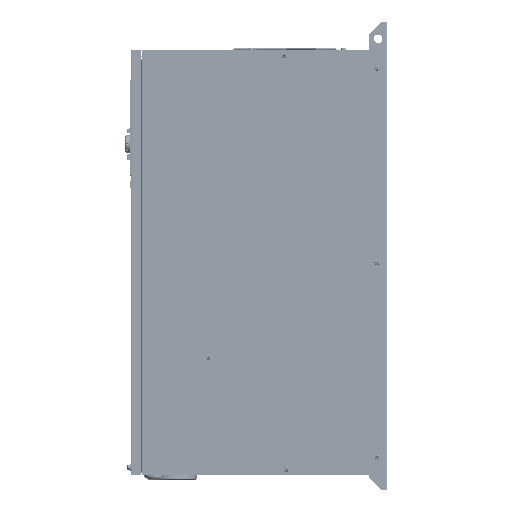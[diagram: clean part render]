
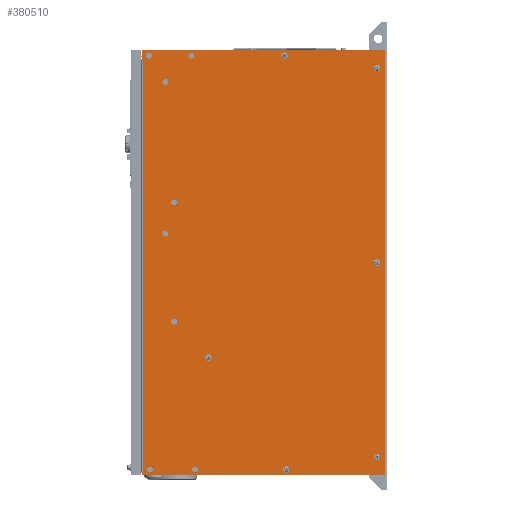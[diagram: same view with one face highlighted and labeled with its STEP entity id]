
A CAD part, left-side view. The second image highlights one B-rep face of the part: STEP entity #380510.
In plain terms, the highlighted planar face has unit normal (-1, 0, 0).
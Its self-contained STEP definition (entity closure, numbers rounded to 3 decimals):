
#20194=FACE_BOUND('',#75819,.T.);
#20195=FACE_BOUND('',#75820,.T.);
#20196=FACE_BOUND('',#75821,.T.);
#20197=FACE_BOUND('',#75822,.T.);
#20198=FACE_BOUND('',#75823,.T.);
#20199=FACE_BOUND('',#75824,.T.);
#20200=FACE_BOUND('',#75825,.T.);
#20201=FACE_BOUND('',#75826,.T.);
#20202=FACE_BOUND('',#75827,.T.);
#20203=FACE_BOUND('',#75828,.T.);
#20204=FACE_BOUND('',#75829,.T.);
#20205=FACE_BOUND('',#75830,.T.);
#20206=FACE_BOUND('',#75831,.T.);
#20207=FACE_BOUND('',#75832,.T.);
#33407=PLANE('',#408307);
#53292=FACE_OUTER_BOUND('',#75818,.T.);
#75818=EDGE_LOOP('',(#347962,#347963,#347964,#347965,#347966,#347967,#347968,
#347969,#347970,#347971,#347972,#347973));
#75819=EDGE_LOOP('',(#347974));
#75820=EDGE_LOOP('',(#347975));
#75821=EDGE_LOOP('',(#347976));
#75822=EDGE_LOOP('',(#347977));
#75823=EDGE_LOOP('',(#347978));
#75824=EDGE_LOOP('',(#347979));
#75825=EDGE_LOOP('',(#347980));
#75826=EDGE_LOOP('',(#347981));
#75827=EDGE_LOOP('',(#347982));
#75828=EDGE_LOOP('',(#347983));
#75829=EDGE_LOOP('',(#347984));
#75830=EDGE_LOOP('',(#347985));
#75831=EDGE_LOOP('',(#347986));
#75832=EDGE_LOOP('',(#347987));
#113784=LINE('',#673375,#153711);
#113785=LINE('',#673379,#153712);
#113786=LINE('',#673383,#153713);
#113787=LINE('',#673387,#153714);
#113788=LINE('',#673388,#153715);
#113789=LINE('',#673389,#153716);
#113790=LINE('',#673391,#153717);
#113791=LINE('',#673392,#153718);
#153711=VECTOR('',#496557,328.5);
#153712=VECTOR('',#496560,576.);
#153713=VECTOR('',#496563,328.5);
#153714=VECTOR('',#496566,12.);
#153715=VECTOR('',#496567,1.4);
#153716=VECTOR('',#496568,560.8);
#153717=VECTOR('',#496569,1.4);
#153718=VECTOR('',#496570,3.2);
#164497=CIRCLE('',#408308,2.);
#164498=CIRCLE('',#408309,2.);
#164499=CIRCLE('',#408310,2.);
#164500=CIRCLE('',#408311,2.);
#164501=CIRCLE('',#408312,3.85);
#164502=CIRCLE('',#408313,3.85);
#164503=CIRCLE('',#408314,3.85);
#164504=CIRCLE('',#408315,3.85);
#164505=CIRCLE('',#408316,3.85);
#164506=CIRCLE('',#408317,3.85);
#164507=CIRCLE('',#408318,3.85);
#164508=CIRCLE('',#408319,3.85);
#164509=CIRCLE('',#408320,2.75);
#164510=CIRCLE('',#408321,2.75);
#164511=CIRCLE('',#408322,2.75);
#164512=CIRCLE('',#408323,2.75);
#164513=CIRCLE('',#408324,2.75);
#164514=CIRCLE('',#408325,2.75);
#196094=VERTEX_POINT('',#673342);
#196097=VERTEX_POINT('',#673349);
#196102=VERTEX_POINT('',#673371);
#196103=VERTEX_POINT('',#673372);
#196104=VERTEX_POINT('',#673374);
#196105=VERTEX_POINT('',#673376);
#196106=VERTEX_POINT('',#673378);
#196107=VERTEX_POINT('',#673380);
#196108=VERTEX_POINT('',#673382);
#196109=VERTEX_POINT('',#673384);
#196110=VERTEX_POINT('',#673386);
#196111=VERTEX_POINT('',#673390);
#196112=VERTEX_POINT('',#673393);
#196113=VERTEX_POINT('',#673395);
#196114=VERTEX_POINT('',#673397);
#196115=VERTEX_POINT('',#673399);
#196116=VERTEX_POINT('',#673401);
#196117=VERTEX_POINT('',#673403);
#196118=VERTEX_POINT('',#673405);
#196119=VERTEX_POINT('',#673407);
#196120=VERTEX_POINT('',#673409);
#196121=VERTEX_POINT('',#673411);
#196122=VERTEX_POINT('',#673413);
#196123=VERTEX_POINT('',#673415);
#196124=VERTEX_POINT('',#673417);
#196125=VERTEX_POINT('',#673419);
#247269=EDGE_CURVE('',#196102,#196103,#164497,.T.);
#247270=EDGE_CURVE('',#196103,#196104,#113784,.T.);
#247271=EDGE_CURVE('',#196104,#196105,#164498,.T.);
#247272=EDGE_CURVE('',#196105,#196106,#113785,.T.);
#247273=EDGE_CURVE('',#196106,#196107,#164499,.T.);
#247274=EDGE_CURVE('',#196107,#196108,#113786,.T.);
#247275=EDGE_CURVE('',#196108,#196109,#164500,.T.);
#247276=EDGE_CURVE('',#196109,#196110,#113787,.T.);
#247277=EDGE_CURVE('',#196094,#196110,#113788,.T.);
#247278=EDGE_CURVE('',#196097,#196094,#113789,.T.);
#247279=EDGE_CURVE('',#196097,#196111,#113790,.T.);
#247280=EDGE_CURVE('',#196111,#196102,#113791,.T.);
#247281=EDGE_CURVE('',#196112,#196112,#164501,.T.);
#247282=EDGE_CURVE('',#196113,#196113,#164502,.T.);
#247283=EDGE_CURVE('',#196114,#196114,#164503,.T.);
#247284=EDGE_CURVE('',#196115,#196115,#164504,.T.);
#247285=EDGE_CURVE('',#196116,#196116,#164505,.T.);
#247286=EDGE_CURVE('',#196117,#196117,#164506,.T.);
#247287=EDGE_CURVE('',#196118,#196118,#164507,.T.);
#247288=EDGE_CURVE('',#196119,#196119,#164508,.T.);
#247289=EDGE_CURVE('',#196120,#196120,#164509,.T.);
#247290=EDGE_CURVE('',#196121,#196121,#164510,.T.);
#247291=EDGE_CURVE('',#196122,#196122,#164511,.T.);
#247292=EDGE_CURVE('',#196123,#196123,#164512,.T.);
#247293=EDGE_CURVE('',#196124,#196124,#164513,.T.);
#247294=EDGE_CURVE('',#196125,#196125,#164514,.T.);
#347962=ORIENTED_EDGE('',*,*,#247269,.T.);
#347963=ORIENTED_EDGE('',*,*,#247270,.T.);
#347964=ORIENTED_EDGE('',*,*,#247271,.T.);
#347965=ORIENTED_EDGE('',*,*,#247272,.T.);
#347966=ORIENTED_EDGE('',*,*,#247273,.T.);
#347967=ORIENTED_EDGE('',*,*,#247274,.T.);
#347968=ORIENTED_EDGE('',*,*,#247275,.T.);
#347969=ORIENTED_EDGE('',*,*,#247276,.T.);
#347970=ORIENTED_EDGE('',*,*,#247277,.F.);
#347971=ORIENTED_EDGE('',*,*,#247278,.F.);
#347972=ORIENTED_EDGE('',*,*,#247279,.T.);
#347973=ORIENTED_EDGE('',*,*,#247280,.T.);
#347974=ORIENTED_EDGE('',*,*,#247281,.T.);
#347975=ORIENTED_EDGE('',*,*,#247282,.T.);
#347976=ORIENTED_EDGE('',*,*,#247283,.T.);
#347977=ORIENTED_EDGE('',*,*,#247284,.T.);
#347978=ORIENTED_EDGE('',*,*,#247285,.T.);
#347979=ORIENTED_EDGE('',*,*,#247286,.T.);
#347980=ORIENTED_EDGE('',*,*,#247287,.T.);
#347981=ORIENTED_EDGE('',*,*,#247288,.T.);
#347982=ORIENTED_EDGE('',*,*,#247289,.F.);
#347983=ORIENTED_EDGE('',*,*,#247290,.F.);
#347984=ORIENTED_EDGE('',*,*,#247291,.F.);
#347985=ORIENTED_EDGE('',*,*,#247292,.F.);
#347986=ORIENTED_EDGE('',*,*,#247293,.F.);
#347987=ORIENTED_EDGE('',*,*,#247294,.F.);
#380510=ADVANCED_FACE('',(#53292,#20194,#20195,#20196,#20197,#20198,#20199,
#20200,#20201,#20202,#20203,#20204,#20205,#20206,#20207),#33407,.T.);
#408307=AXIS2_PLACEMENT_3D('',#673370,#496553,#496554);
#408308=AXIS2_PLACEMENT_3D('',#673373,#496555,#496556);
#408309=AXIS2_PLACEMENT_3D('',#673377,#496558,#496559);
#408310=AXIS2_PLACEMENT_3D('',#673381,#496561,#496562);
#408311=AXIS2_PLACEMENT_3D('',#673385,#496564,#496565);
#408312=AXIS2_PLACEMENT_3D('',#673394,#496571,#496572);
#408313=AXIS2_PLACEMENT_3D('',#673396,#496573,#496574);
#408314=AXIS2_PLACEMENT_3D('',#673398,#496575,#496576);
#408315=AXIS2_PLACEMENT_3D('',#673400,#496577,#496578);
#408316=AXIS2_PLACEMENT_3D('',#673402,#496579,#496580);
#408317=AXIS2_PLACEMENT_3D('',#673404,#496581,#496582);
#408318=AXIS2_PLACEMENT_3D('',#673406,#496583,#496584);
#408319=AXIS2_PLACEMENT_3D('',#673408,#496585,#496586);
#408320=AXIS2_PLACEMENT_3D('',#673410,#496587,#496588);
#408321=AXIS2_PLACEMENT_3D('',#673412,#496589,#496590);
#408322=AXIS2_PLACEMENT_3D('',#673414,#496591,#496592);
#408323=AXIS2_PLACEMENT_3D('',#673416,#496593,#496594);
#408324=AXIS2_PLACEMENT_3D('',#673418,#496595,#496596);
#408325=AXIS2_PLACEMENT_3D('',#673420,#496597,#496598);
#496553=DIRECTION('center_axis',(-1.,0.,0.));
#496554=DIRECTION('ref_axis',(0.,0.,1.));
#496555=DIRECTION('center_axis',(-1.,0.,0.));
#496556=DIRECTION('ref_axis',(0.,1.,0.));
#496557=DIRECTION('',(0.,-1.,0.));
#496558=DIRECTION('center_axis',(-1.,0.,0.));
#496559=DIRECTION('ref_axis',(0.,0.,-1.));
#496560=DIRECTION('',(0.,0.,1.));
#496561=DIRECTION('center_axis',(-1.,0.,0.));
#496562=DIRECTION('ref_axis',(0.,-1.,0.));
#496563=DIRECTION('',(0.,1.,0.));
#496564=DIRECTION('center_axis',(-1.,0.,0.));
#496565=DIRECTION('ref_axis',(0.,0.,1.));
#496566=DIRECTION('',(0.,0.,-1.));
#496567=DIRECTION('',(0.,1.,0.));
#496568=DIRECTION('',(0.,0.,1.));
#496569=DIRECTION('',(0.,1.,0.));
#496570=DIRECTION('',(0.,0.,-1.));
#496571=DIRECTION('center_axis',(1.,0.,0.));
#496572=DIRECTION('ref_axis',(0.,1.,0.));
#496573=DIRECTION('center_axis',(1.,0.,0.));
#496574=DIRECTION('ref_axis',(0.,1.,0.));
#496575=DIRECTION('center_axis',(1.,0.,0.));
#496576=DIRECTION('ref_axis',(0.,1.,0.));
#496577=DIRECTION('center_axis',(1.,0.,0.));
#496578=DIRECTION('ref_axis',(0.,1.,0.));
#496579=DIRECTION('center_axis',(1.,0.,0.));
#496580=DIRECTION('ref_axis',(0.,1.,0.));
#496581=DIRECTION('center_axis',(1.,0.,0.));
#496582=DIRECTION('ref_axis',(0.,1.,0.));
#496583=DIRECTION('center_axis',(1.,0.,0.));
#496584=DIRECTION('ref_axis',(0.,1.,0.));
#496585=DIRECTION('center_axis',(1.,0.,0.));
#496586=DIRECTION('ref_axis',(0.,1.,0.));
#496587=DIRECTION('center_axis',(-1.,0.,0.));
#496588=DIRECTION('ref_axis',(0.,1.,0.));
#496589=DIRECTION('center_axis',(-1.,0.,0.));
#496590=DIRECTION('ref_axis',(0.,1.,0.));
#496591=DIRECTION('center_axis',(-1.,0.,0.));
#496592=DIRECTION('ref_axis',(0.,1.,0.));
#496593=DIRECTION('center_axis',(-1.,0.,0.));
#496594=DIRECTION('ref_axis',(0.,1.,0.));
#496595=DIRECTION('center_axis',(-1.,0.,0.));
#496596=DIRECTION('ref_axis',(0.,1.,0.));
#496597=DIRECTION('center_axis',(-1.,0.,0.));
#496598=DIRECTION('ref_axis',(0.,1.,0.));
#673342=CARTESIAN_POINT('',(-135.,333.6,276.));
#673349=CARTESIAN_POINT('',(-135.,333.6,-284.8));
#673370=CARTESIAN_POINT('Origin',(-135.,0.,0.));
#673371=CARTESIAN_POINT('',(-135.,335.,-288.));
#673372=CARTESIAN_POINT('',(-135.,333.,-290.));
#673373=CARTESIAN_POINT('Origin',(-135.,333.,-288.));
#673374=CARTESIAN_POINT('',(-135.,4.5,-290.));
#673375=CARTESIAN_POINT('',(-135.,333.,-290.));
#673376=CARTESIAN_POINT('',(-135.,2.5,-288.));
#673377=CARTESIAN_POINT('Origin',(-135.,4.5,-288.));
#673378=CARTESIAN_POINT('',(-135.,2.5,288.));
#673379=CARTESIAN_POINT('',(-135.,2.5,-288.));
#673380=CARTESIAN_POINT('',(-135.,4.5,290.));
#673381=CARTESIAN_POINT('Origin',(-135.,4.5,288.));
#673382=CARTESIAN_POINT('',(-135.,333.,290.));
#673383=CARTESIAN_POINT('',(-135.,4.5,290.));
#673384=CARTESIAN_POINT('',(-135.,335.,288.));
#673385=CARTESIAN_POINT('Origin',(-135.,333.,288.));
#673386=CARTESIAN_POINT('',(-135.,335.,276.));
#673387=CARTESIAN_POINT('',(-135.,335.,288.));
#673388=CARTESIAN_POINT('',(-135.,333.6,276.));
#673389=CARTESIAN_POINT('',(-135.,333.6,-284.8));
#673390=CARTESIAN_POINT('',(-135.,335.,-284.8));
#673391=CARTESIAN_POINT('',(-135.,333.6,-284.8));
#673392=CARTESIAN_POINT('',(-135.,335.,-284.8));
#673393=CARTESIAN_POINT('',(-135.,262.,-278.15));
#673394=CARTESIAN_POINT('Origin',(-135.,262.,-282.));
#673395=CARTESIAN_POINT('',(-135.,323.6,-278.15));
#673396=CARTESIAN_POINT('Origin',(-135.,323.6,-282.));
#673397=CARTESIAN_POINT('',(-135.,290.5,-76.65));
#673398=CARTESIAN_POINT('Origin',(-135.,290.5,-80.5));
#673399=CARTESIAN_POINT('',(-135.,302.5,43.15));
#673400=CARTESIAN_POINT('Origin',(-135.,302.5,39.3));
#673401=CARTESIAN_POINT('',(-135.,290.5,85.85));
#673402=CARTESIAN_POINT('Origin',(-135.,290.5,82.));
#673403=CARTESIAN_POINT('',(-135.,302.5,249.85));
#673404=CARTESIAN_POINT('Origin',(-135.,302.5,246.));
#673405=CARTESIAN_POINT('',(-135.,267.,285.85));
#673406=CARTESIAN_POINT('Origin',(-135.,267.,282.));
#673407=CARTESIAN_POINT('',(-135.,325.,285.85));
#673408=CARTESIAN_POINT('Origin',(-135.,325.,282.));
#673409=CARTESIAN_POINT('',(-135.,11.25,-265.));
#673410=CARTESIAN_POINT('Origin',(-135.,14.,-265.));
#673411=CARTESIAN_POINT('',(-135.,11.25,0.));
#673412=CARTESIAN_POINT('Origin',(-135.,14.,0.));
#673413=CARTESIAN_POINT('',(-135.,11.25,265.));
#673414=CARTESIAN_POINT('Origin',(-135.,14.,265.));
#673415=CARTESIAN_POINT('',(-135.,135.15,-282.));
#673416=CARTESIAN_POINT('Origin',(-135.,137.9,-282.));
#673417=CARTESIAN_POINT('',(-135.,241.25,-129.5));
#673418=CARTESIAN_POINT('Origin',(-135.,244.,-129.5));
#673419=CARTESIAN_POINT('',(-135.,137.65,282.));
#673420=CARTESIAN_POINT('Origin',(-135.,140.4,282.));
